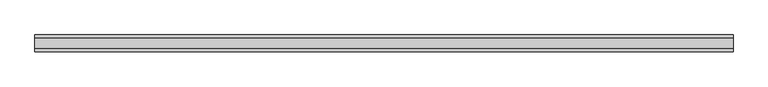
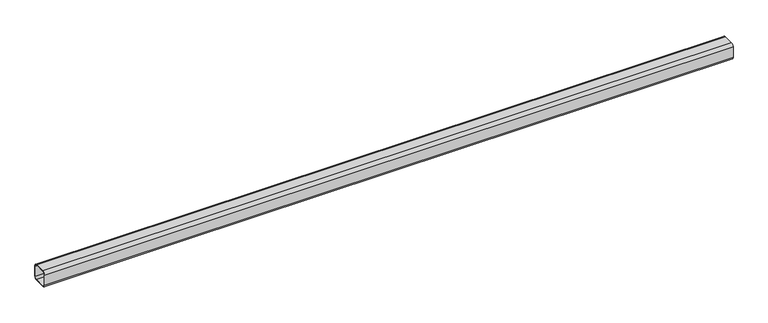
"""IFC4 building model written with IfcOpenShell, lengths in millimetres: beam geometry, Гнутый квадратный профиль (ТУ BE25577 - 83) Балки : гнутый квадрат. проф. 100x5."""

from ifc_helpers import new_model, si_unit, point, frame, frame_2d, origin, place, context, project, spatial, polyline, circle_curve, trimmed, segment, composite_curve, outline, extrude, source, transform, mapped, element, save


def beam_d79d36f8(model_context):
    return source(origin(), model_context, "Body", "SweptSolid", [
        extrude(outline(composite_curve([segment(polyline([(-33.0, 50.0), (33.0, 50.0)]), True, "CONTINUOUS"), segment(trimmed(circle_curve(frame_2d((33.0, 33.0)), 17.0), [point((33.0, 50.0))], [point((50.0, 33.0))], False, "CARTESIAN"), True, "CONTINUOUS"), segment(polyline([(50.0, 33.0), (50.0, -33.0)]), True, "CONTINUOUS"), segment(trimmed(circle_curve(frame_2d((33.0, -33.0)), 17.0), [point((50.0, -33.0))], [point((33.0, -50.0))], False, "CARTESIAN"), True, "CONTINUOUS"), segment(polyline([(33.0, -50.0), (-33.0, -50.0)]), True, "CONTINUOUS"), segment(trimmed(circle_curve(frame_2d((-33.0, -33.0)), 17.0), [point((-33.0, -50.0))], [point((-50.0, -33.0))], False, "CARTESIAN"), True, "CONTINUOUS"), segment(polyline([(-50.0, -33.0), (-50.0, 33.0)]), True, "CONTINUOUS"), segment(trimmed(circle_curve(frame_2d((-33.0, 33.0)), 17.0), [point((-50.0, 33.0))], [point((-33.0, 50.0))], False, "CARTESIAN"), True, "CONTINUOUS")], self_intersect=False), holes=[composite_curve([segment(trimmed(circle_curve(frame_2d((-33.0, 33.0)), 12.0), [point((-33.0, 45.0))], [point((-45.0, 33.0))], True, "CARTESIAN"), True, "CONTINUOUS"), segment(polyline([(-45.0, 33.0), (-45.0, -33.0)]), True, "CONTINUOUS"), segment(trimmed(circle_curve(frame_2d((-33.0, -33.0)), 12.0), [point((-45.0, -33.0))], [point((-33.0, -45.0))], True, "CARTESIAN"), True, "CONTINUOUS"), segment(polyline([(-33.0, -45.0), (33.0, -45.0)]), True, "CONTINUOUS"), segment(trimmed(circle_curve(frame_2d((33.0, -33.0)), 12.0), [point((33.0, -45.0))], [point((45.0, -33.0))], True, "CARTESIAN"), True, "CONTINUOUS"), segment(polyline([(45.0, -33.0), (45.0, 33.0)]), True, "CONTINUOUS"), segment(trimmed(circle_curve(frame_2d((33.0, 33.0)), 12.0), [point((45.0, 33.0))], [point((33.0, 45.0))], True, "CARTESIAN"), True, "CONTINUOUS"), segment(polyline([(33.0, 45.0), (-33.0, 45.0)]), True, "CONTINUOUS")], self_intersect=False)]), frame((-2123.5, 0.0, 0.0), z_axis=(1.0, 0.0, 0.0), x_axis=(0.0, 1.0, 0.0)), (0.0, 0.0, 1.0), 4184.0),
    ])


if __name__ == "__main__":
    model = new_model("IFC4")
    model_context = context("Model", 3, world=origin())
    ifc_project = project(units=[si_unit("LENGTHUNIT", "METRE", prefix="MILLI")], contexts=[model_context])
    site = spatial("IfcSite", under=ifc_project)
    building = spatial("IfcBuilding", under=site)
    placement = place(None, origin())
    beam_shape = beam_d79d36f8(model_context)
    element("IfcBeam", 1, ObjectType="Гнутый квадратный профиль (ТУ BE25577 - 83) Балки : гнутый квадрат. проф. 100x5", at=placement, inside=building, context=model_context, shape_type="MappedRepresentation", body=[
        mapped(beam_shape, transform((0.0, 0.0, 0.0), x_axis=(1.0, 0.0, 0.0), y_axis=(0.0, 1.0, 0.0), z_axis=(0.0, 0.0, 1.0))),
    ])
    save(model, "model.ifc")
